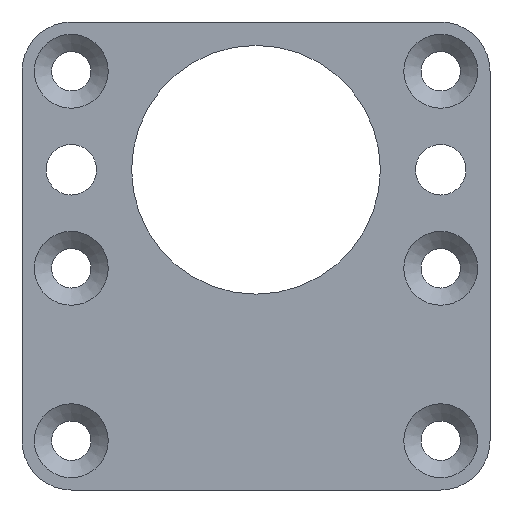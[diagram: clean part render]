
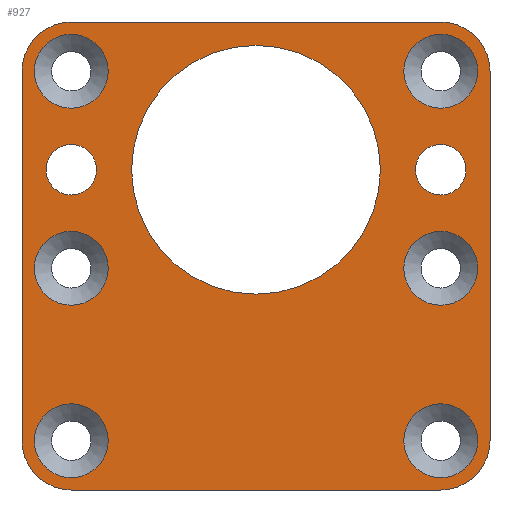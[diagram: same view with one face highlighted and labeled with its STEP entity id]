
A CAD part, front view. The second image highlights one B-rep face of the part: STEP entity #927.
In plain terms, the highlighted planar face has unit normal (0, -1, 0).
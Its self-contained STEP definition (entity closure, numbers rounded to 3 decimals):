
#40=FACE_BOUND('',#147,.T.);
#41=FACE_BOUND('',#148,.T.);
#42=FACE_BOUND('',#149,.T.);
#43=FACE_BOUND('',#150,.T.);
#44=FACE_BOUND('',#151,.T.);
#45=FACE_BOUND('',#152,.T.);
#46=FACE_BOUND('',#153,.T.);
#47=FACE_BOUND('',#154,.T.);
#48=FACE_BOUND('',#155,.T.);
#57=PLANE('',#1019);
#80=FACE_OUTER_BOUND('',#146,.T.);
#146=EDGE_LOOP('',(#676,#677,#678,#679,#680,#681,#682,#683));
#147=EDGE_LOOP('',(#684));
#148=EDGE_LOOP('',(#685));
#149=EDGE_LOOP('',(#686));
#150=EDGE_LOOP('',(#687));
#151=EDGE_LOOP('',(#688));
#152=EDGE_LOOP('',(#689));
#153=EDGE_LOOP('',(#690));
#154=EDGE_LOOP('',(#691));
#155=EDGE_LOOP('',(#692));
#210=LINE('',#1439,#280);
#221=LINE('',#1493,#291);
#226=LINE('',#1509,#296);
#227=LINE('',#1511,#297);
#280=VECTOR('',#1136,10.);
#291=VECTOR('',#1183,10.);
#296=VECTOR('',#1196,10.);
#297=VECTOR('',#1199,10.);
#349=CIRCLE('',#997,4.);
#363=CIRCLE('',#1014,4.);
#365=CIRCLE('',#1020,4.);
#366=CIRCLE('',#1021,4.);
#367=CIRCLE('',#1022,10.1);
#368=CIRCLE('',#1023,3.);
#369=CIRCLE('',#1024,3.);
#370=CIRCLE('',#1025,3.);
#371=CIRCLE('',#1026,3.);
#372=CIRCLE('',#1027,2.05);
#373=CIRCLE('',#1028,2.05);
#374=CIRCLE('',#1029,3.);
#375=CIRCLE('',#1030,3.);
#407=VERTEX_POINT('',#1429);
#408=VERTEX_POINT('',#1431);
#410=VERTEX_POINT('',#1437);
#431=VERTEX_POINT('',#1483);
#432=VERTEX_POINT('',#1484);
#435=VERTEX_POINT('',#1492);
#441=VERTEX_POINT('',#1506);
#442=VERTEX_POINT('',#1508);
#443=VERTEX_POINT('',#1512);
#444=VERTEX_POINT('',#1514);
#445=VERTEX_POINT('',#1516);
#446=VERTEX_POINT('',#1518);
#447=VERTEX_POINT('',#1520);
#448=VERTEX_POINT('',#1522);
#449=VERTEX_POINT('',#1524);
#450=VERTEX_POINT('',#1526);
#451=VERTEX_POINT('',#1528);
#495=EDGE_CURVE('',#407,#408,#349,.T.);
#499=EDGE_CURVE('',#407,#410,#210,.T.);
#521=EDGE_CURVE('',#431,#432,#363,.T.);
#525=EDGE_CURVE('',#435,#432,#221,.T.);
#532=EDGE_CURVE('',#441,#410,#365,.T.);
#533=EDGE_CURVE('',#441,#442,#226,.T.);
#534=EDGE_CURVE('',#435,#442,#366,.T.);
#535=EDGE_CURVE('',#431,#408,#227,.T.);
#536=EDGE_CURVE('',#443,#443,#367,.F.);
#537=EDGE_CURVE('',#444,#444,#368,.T.);
#538=EDGE_CURVE('',#445,#445,#369,.T.);
#539=EDGE_CURVE('',#446,#446,#370,.T.);
#540=EDGE_CURVE('',#447,#447,#371,.T.);
#541=EDGE_CURVE('',#448,#448,#372,.T.);
#542=EDGE_CURVE('',#449,#449,#373,.T.);
#543=EDGE_CURVE('',#450,#450,#374,.T.);
#544=EDGE_CURVE('',#451,#451,#375,.T.);
#676=ORIENTED_EDGE('',*,*,#495,.F.);
#677=ORIENTED_EDGE('',*,*,#499,.T.);
#678=ORIENTED_EDGE('',*,*,#532,.F.);
#679=ORIENTED_EDGE('',*,*,#533,.T.);
#680=ORIENTED_EDGE('',*,*,#534,.F.);
#681=ORIENTED_EDGE('',*,*,#525,.T.);
#682=ORIENTED_EDGE('',*,*,#521,.F.);
#683=ORIENTED_EDGE('',*,*,#535,.T.);
#684=ORIENTED_EDGE('',*,*,#536,.T.);
#685=ORIENTED_EDGE('',*,*,#537,.T.);
#686=ORIENTED_EDGE('',*,*,#538,.T.);
#687=ORIENTED_EDGE('',*,*,#539,.T.);
#688=ORIENTED_EDGE('',*,*,#540,.T.);
#689=ORIENTED_EDGE('',*,*,#541,.T.);
#690=ORIENTED_EDGE('',*,*,#542,.T.);
#691=ORIENTED_EDGE('',*,*,#543,.T.);
#692=ORIENTED_EDGE('',*,*,#544,.T.);
#927=ADVANCED_FACE('',(#80,#40,#41,#42,#43,#44,#45,#46,#47,#48),#57,.T.);
#997=AXIS2_PLACEMENT_3D('',#1432,#1129,#1130);
#1014=AXIS2_PLACEMENT_3D('',#1485,#1175,#1176);
#1019=AXIS2_PLACEMENT_3D('',#1505,#1192,#1193);
#1020=AXIS2_PLACEMENT_3D('',#1507,#1194,#1195);
#1021=AXIS2_PLACEMENT_3D('',#1510,#1197,#1198);
#1022=AXIS2_PLACEMENT_3D('',#1513,#1200,#1201);
#1023=AXIS2_PLACEMENT_3D('',#1515,#1202,#1203);
#1024=AXIS2_PLACEMENT_3D('',#1517,#1204,#1205);
#1025=AXIS2_PLACEMENT_3D('',#1519,#1206,#1207);
#1026=AXIS2_PLACEMENT_3D('',#1521,#1208,#1209);
#1027=AXIS2_PLACEMENT_3D('',#1523,#1210,#1211);
#1028=AXIS2_PLACEMENT_3D('',#1525,#1212,#1213);
#1029=AXIS2_PLACEMENT_3D('',#1527,#1214,#1215);
#1030=AXIS2_PLACEMENT_3D('',#1529,#1216,#1217);
#1129=DIRECTION('center_axis',(0.,1.,0.));
#1130=DIRECTION('ref_axis',(-0.707,0.,-0.707));
#1136=DIRECTION('',(1.,0.,0.));
#1175=DIRECTION('center_axis',(0.,1.,0.));
#1176=DIRECTION('ref_axis',(-0.707,0.,0.707));
#1183=DIRECTION('',(-1.,0.,0.));
#1192=DIRECTION('center_axis',(0.,-1.,0.));
#1193=DIRECTION('ref_axis',(1.,0.,0.));
#1194=DIRECTION('center_axis',(0.,1.,0.));
#1195=DIRECTION('ref_axis',(0.707,0.,-0.707));
#1196=DIRECTION('',(0.,0.,1.));
#1197=DIRECTION('center_axis',(0.,1.,0.));
#1198=DIRECTION('ref_axis',(0.707,0.,0.707));
#1199=DIRECTION('',(0.,0.,-1.));
#1200=DIRECTION('center_axis',(0.,-1.,0.));
#1201=DIRECTION('ref_axis',(1.,0.,0.));
#1202=DIRECTION('center_axis',(0.,1.,0.));
#1203=DIRECTION('ref_axis',(0.,0.,-1.));
#1204=DIRECTION('center_axis',(0.,1.,0.));
#1205=DIRECTION('ref_axis',(0.,0.,-1.));
#1206=DIRECTION('center_axis',(0.,1.,0.));
#1207=DIRECTION('ref_axis',(0.,0.,-1.));
#1208=DIRECTION('center_axis',(0.,1.,0.));
#1209=DIRECTION('ref_axis',(0.,0.,-1.));
#1210=DIRECTION('center_axis',(0.,1.,0.));
#1211=DIRECTION('ref_axis',(0.,0.,
-1.));
#1212=DIRECTION('center_axis',(0.,1.,0.));
#1213=DIRECTION('ref_axis',(0.,0.,
-1.));
#1214=DIRECTION('center_axis',(0.,1.,0.));
#1215=DIRECTION('ref_axis',(0.,0.,-1.));
#1216=DIRECTION('center_axis',(0.,1.,0.));
#1217=DIRECTION('ref_axis',(0.,0.,-1.));
#1429=CARTESIAN_POINT('',(-15.,2.,-26.));
#1431=CARTESIAN_POINT('',(-19.,2.,-22.));
#1432=CARTESIAN_POINT('Origin',(-15.,2.,-22.));
#1437=CARTESIAN_POINT('',(15.,2.,-26.));
#1439=CARTESIAN_POINT('',(27.,2.,-26.));
#1483=CARTESIAN_POINT('',(-19.,2.,8.));
#1484=CARTESIAN_POINT('',(-15.,2.,12.));
#1485=CARTESIAN_POINT('Origin',(-15.,2.,8.));
#1492=CARTESIAN_POINT('',(15.,2.,12.));
#1493=CARTESIAN_POINT('',(-27.,2.,12.));
#1505=CARTESIAN_POINT('Origin',(0.,2.,
0.));
#1506=CARTESIAN_POINT('',(19.,2.,-22.));
#1507=CARTESIAN_POINT('Origin',(15.,2.,-22.));
#1508=CARTESIAN_POINT('',(19.,2.,8.));
#1509=CARTESIAN_POINT('',(19.,2.,14.5));
#1510=CARTESIAN_POINT('Origin',(15.,2.,8.));
#1511=CARTESIAN_POINT('',(-19.,2.,-14.5));
#1512=CARTESIAN_POINT('',(-10.1,2.,0.));
#1513=CARTESIAN_POINT('Origin',(0.,2.,
0.));
#1514=CARTESIAN_POINT('',(15.,2.,11.));
#1515=CARTESIAN_POINT('Origin',(15.,2.,8.));
#1516=CARTESIAN_POINT('',(-15.,2.,11.));
#1517=CARTESIAN_POINT('Origin',(-15.,2.,8.));
#1518=CARTESIAN_POINT('',(-15.,2.,-19.));
#1519=CARTESIAN_POINT('Origin',(-15.,2.,-22.));
#1520=CARTESIAN_POINT('',(15.,2.,-19.));
#1521=CARTESIAN_POINT('Origin',(15.,2.,-22.));
#1522=CARTESIAN_POINT('',(-15.,2.,2.05));
#1523=CARTESIAN_POINT('Origin',(-15.,2.,0.));
#1524=CARTESIAN_POINT('',(15.,2.,2.05));
#1525=CARTESIAN_POINT('Origin',(15.,2.,0.));
#1526=CARTESIAN_POINT('',(-15.,2.,-5.));
#1527=CARTESIAN_POINT('Origin',(-15.,2.,-8.));
#1528=CARTESIAN_POINT('',(15.,2.,-5.));
#1529=CARTESIAN_POINT('Origin',(15.,2.,-8.));
